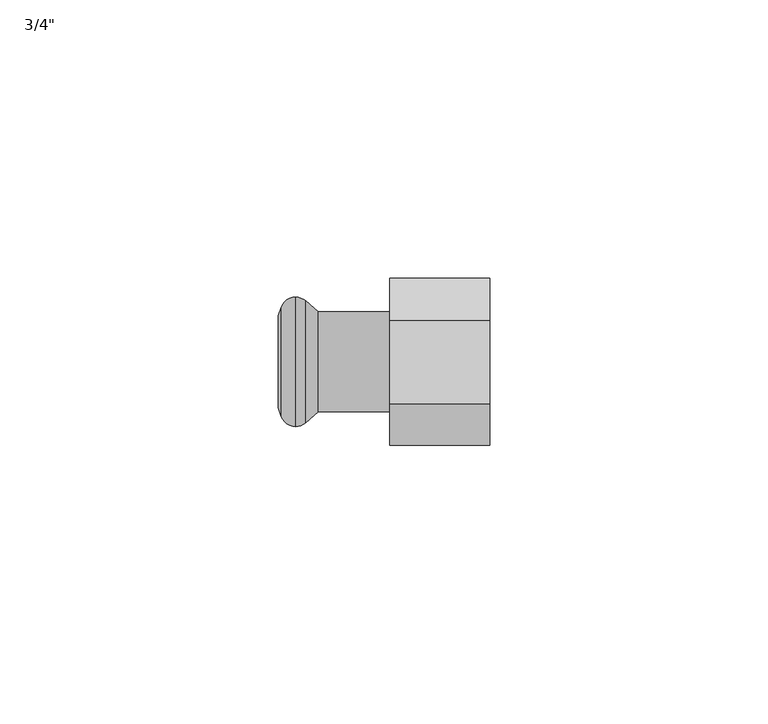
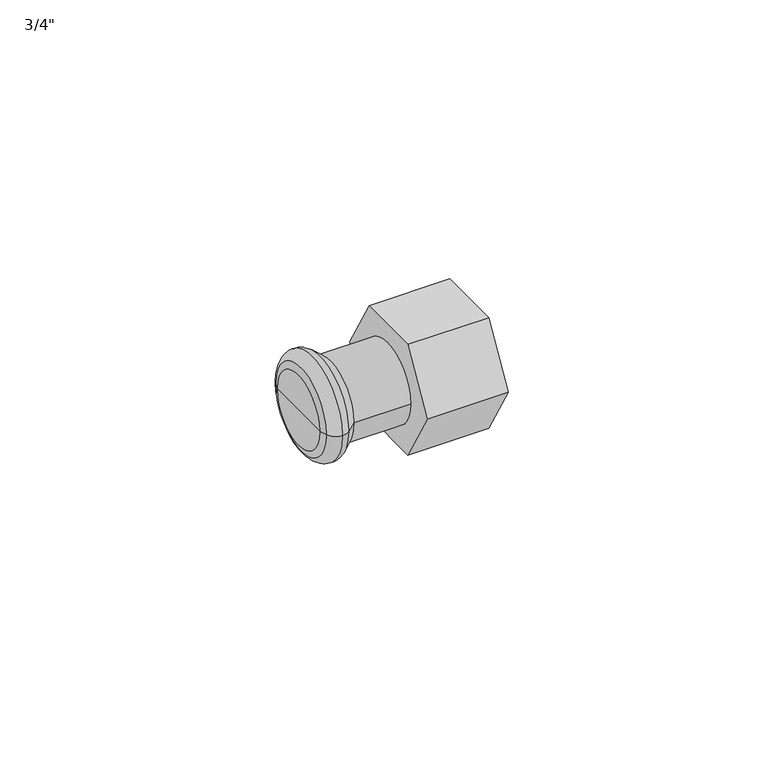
"""IFC4 building model written with IfcOpenShell, lengths in millimetres: pipe fitting geometry."""

import ifcopenshell
import ifcopenshell.guid

model = None  # the IFC model being written
_history = None  # IfcOwnerHistory: only IFC2X3 demands one
_inside = {}  # id of a spatial element -> (the spatial element, [elements in it])
_under = {}  # id of a project, library or spatial element -> (it, [spatial elements below it])
_declared = {}  # id of a project -> (the project, [libraries it declares])
_typed = {}  # id of a type object -> (the type object, [elements of that type])
_made_of = {}  # id of a material, layer set ... -> (it, [elements and type objects made of it])


def new_model(schema):
    """Start an empty IFC model of exactly this schema.

    Asked for "IFC4X3", IfcOpenShell would pick the latest addendum, in which some entities
    have other attributes; the version numbers below select the first issue.
    IFC2X3 requires an IfcOwnerHistory on every rooted entity: one is made here for all.
    """
    global model, _history
    if schema == "IFC4X3":
        model = ifcopenshell.file(schema_version=(4, 3, 0, 0))
    else:
        model = ifcopenshell.file(schema=schema)
    _inside.clear()
    _under.clear()
    _declared.clear()
    _typed.clear()
    _made_of.clear()
    _history = None
    if model.schema == "IFC2X3":
        org = make("IfcOrganization", Name="unknown")
        user = make(
            "IfcPersonAndOrganization",
            ThePerson=make("IfcPerson", FamilyName="unknown"),
            TheOrganization=org,
        )
        app = make(
            "IfcApplication",
            ApplicationDeveloper=org,
            Version="unknown",
            ApplicationFullName="unknown",
            ApplicationIdentifier="unknown",
        )
        _history = make(
            "IfcOwnerHistory",
            OwningUser=user,
            OwningApplication=app,
            ChangeAction="ADDED",
            CreationDate=0,
        )
    return model


def make(cls, **values):
    """One entity of the class cls with the attributes given. An attribute that is None is left unset."""
    return model.create_entity(
        cls, **{name: value for name, value in values.items() if value is not None}
    )


def rooted(cls, **values):
    """An entity with a GlobalId (a new one), such as an element, a storey or a relation."""
    return make(cls, GlobalId=ifcopenshell.guid.new(), OwnerHistory=_history, **values)


def si_unit(unit_type, name, prefix=None):
    """IfcSIUnit, for example si_unit("LENGTHUNIT", "METRE", prefix="MILLI")."""
    return make("IfcSIUnit", UnitType=unit_type, Prefix=prefix, Name=name)


def assignment(units):
    """IfcUnitAssignment: the units of a project."""
    return None if units is None else make("IfcUnitAssignment", Units=units)


def point(xyz):
    """IfcCartesianPoint."""
    return None if xyz is None else make("IfcCartesianPoint", Coordinates=xyz)


def direction(xyz):
    """IfcDirection."""
    return None if xyz is None else make("IfcDirection", DirectionRatios=xyz)


def frame(location, z_axis=None, x_axis=None):
    """IfcAxis2Placement3D, a coordinate frame: its origin and axes. An axis left out is left unset."""
    return make(
        "IfcAxis2Placement3D",
        Location=point(location),
        Axis=direction(z_axis),
        RefDirection=direction(x_axis),
    )


def origin():
    """The frame at (0, 0, 0) with its axes left unset."""
    return frame((0.0, 0.0, 0.0))


def place(relative_to, where):
    """IfcLocalPlacement: puts the frame where relative to a parent placement (None: the world)."""
    return make(
        "IfcLocalPlacement", PlacementRelTo=relative_to, RelativePlacement=where
    )


def context(
    kind, dimensions, precision=None, world=None, true_north=None, identifier=None
):
    """IfcGeometricRepresentationContext, for example the 3D "Model" context."""
    return make(
        "IfcGeometricRepresentationContext",
        ContextIdentifier=identifier,
        ContextType=kind,
        CoordinateSpaceDimension=dimensions,
        Precision=precision,
        WorldCoordinateSystem=world,
        TrueNorth=true_north,
    )


def project(units=None, contexts=None):
    """IfcProject with its units and contexts."""
    return rooted(
        "IfcProject",
        Name="project",
        RepresentationContexts=contexts,
        UnitsInContext=assignment(units),
    )


def spatial(cls, under=None, at=None, **own):
    """A site, building, storey or space (cls), placed at a placement, below another one or the project."""
    s = rooted(cls, ObjectPlacement=at, **own)
    if under is not None:
        _under.setdefault(under.id(), (under, []))[1].append(s)
    return s


def polyline(points):
    """IfcPolyline through the points."""
    return make("IfcPolyline", Points=[point(p) for p in points])


def circle_curve(where, radius):
    """IfcCircle in the frame where."""
    return make("IfcCircle", Position=where, Radius=radius)


def ellipse_curve(where, semi_axis1, semi_axis2):
    """IfcEllipse in the frame where."""
    return make(
        "IfcEllipse", Position=where, SemiAxis1=semi_axis1, SemiAxis2=semi_axis2
    )


def trimmed(basis, trim1, trim2, sense, master):
    """IfcTrimmedCurve: the piece of a basis curve between two trims."""
    return make(
        "IfcTrimmedCurve",
        BasisCurve=basis,
        Trim1=trim1,
        Trim2=trim2,
        SenseAgreement=sense,
        MasterRepresentation=master,
    )


def outline(outer, holes=None, kind="AREA"):
    """IfcArbitraryClosedProfileDef: a profile drawn as a closed curve; with holes, ...WithVoids."""
    if holes is None:
        return make("IfcArbitraryClosedProfileDef", ProfileType=kind, OuterCurve=outer)
    return make(
        "IfcArbitraryProfileDefWithVoids",
        ProfileType=kind,
        OuterCurve=outer,
        InnerCurves=holes,
    )


def extrude(swept, where, along, depth):
    """IfcExtrudedAreaSolid: the profile swept, set in the frame where, extruded along a direction by depth."""
    return make(
        "IfcExtrudedAreaSolid",
        SweptArea=swept,
        Position=where,
        ExtrudedDirection=direction(along),
        Depth=depth,
    )


def shape(context_of_items, identifier, shape_type, items):
    """IfcShapeRepresentation: the items that make up one representation, for example the "Body"."""
    return make(
        "IfcShapeRepresentation",
        ContextOfItems=context_of_items,
        RepresentationIdentifier=identifier,
        RepresentationType=shape_type,
        Items=items,
    )


def source(mapping_origin, context_of_items, identifier, shape_type, items):
    """IfcRepresentationMap: a shape defined once, which mapped items show again and again."""
    return make(
        "IfcRepresentationMap",
        MappingOrigin=mapping_origin,
        MappedRepresentation=shape(context_of_items, identifier, shape_type, items),
    )


def transform(
    local_origin,
    x_axis=None,
    y_axis=None,
    z_axis=None,
    scale=None,
    scale2=None,
    scale3=None,
    uniform=True,
):
    """IfcCartesianTransformationOperator3D, or its non-uniform kind. x_axis, y_axis, z_axis: its Axis1, 2, 3."""
    if uniform:
        return make(
            "IfcCartesianTransformationOperator3D",
            Axis1=direction(x_axis),
            Axis2=direction(y_axis),
            LocalOrigin=point(local_origin),
            Scale=scale,
            Axis3=direction(z_axis),
        )
    return make(
        "IfcCartesianTransformationOperator3DnonUniform",
        Axis1=direction(x_axis),
        Axis2=direction(y_axis),
        LocalOrigin=point(local_origin),
        Scale=scale,
        Axis3=direction(z_axis),
        Scale2=scale2,
        Scale3=scale3,
    )


def mapped(mapping_source, mapping_target):
    """IfcMappedItem: shows the shape of a source again, moved by a transform."""
    return make(
        "IfcMappedItem", MappingSource=mapping_source, MappingTarget=mapping_target
    )


def made_of(thing, what):
    """Note that an element or type object is made of a material, layer set ...; save() writes the relation."""
    if what is not None:
        _made_of.setdefault(what.id(), (what, []))[1].append(thing)
    return thing


def element(
    cls,
    number,
    at=None,
    inside=None,
    cuts=None,
    type_object=None,
    material=None,
    context=None,
    identifier="Body",
    shape_type=None,
    held_by="IfcProductDefinitionShape",
    body=None,
    shapes=None,
    **own,
):
    """One element of the class cls, such as IfcWall. Its Tag is "e" and its number.

    at: its placement. inside: the storey or other place that contains it. cuts: it is an
    opening in that element (IfcRelVoidsElement). A single representation is given by context,
    identifier, shape_type and body (its items); several are given by shapes. held_by: the class
    of the entity that holds the representations. save() writes the other relations.
    """
    e = rooted(cls, Tag="e%d" % number, ObjectPlacement=at, **own)
    if body is not None:
        shapes = [shape(context, identifier, shape_type, body)]
    if shapes is not None:
        e.Representation = make(held_by, Representations=shapes)
    if inside is not None:
        _inside.setdefault(inside.id(), (inside, []))[1].append(e)
    if cuts is not None:
        rooted(
            "IfcRelVoidsElement", RelatingBuildingElement=cuts, RelatedOpeningElement=e
        )
    if type_object is not None:
        _typed.setdefault(type_object.id(), (type_object, []))[1].append(e)
    return made_of(e, material)


def aggregate(whole, parts):
    """IfcRelAggregates: a whole, such as a stair, and the parts it consists of."""
    return rooted("IfcRelAggregates", RelatingObject=whole, RelatedObjects=parts)


def save(model, path):
    """Write the relations noted so far, then the file.

    IfcRelAggregates (storeys below a building ...), IfcRelContainedInSpatialStructure (elements
    in a storey), IfcRelDefinesByType, IfcRelAssociatesMaterial and IfcRelDeclares: one each for
    every whole, place, type object, material and project.
    """
    for whole, parts in _under.values():
        aggregate(whole, parts)
    for where, things in _inside.values():
        rooted(
            "IfcRelContainedInSpatialStructure",
            RelatedElements=things,
            RelatingStructure=where,
        )
    for kind, things in _typed.values():
        rooted("IfcRelDefinesByType", RelatedObjects=things, RelatingType=kind)
    for what, things in _made_of.values():
        rooted("IfcRelAssociatesMaterial", RelatedObjects=things, RelatingMaterial=what)
    for by, libraries in _declared.values():
        rooted("IfcRelDeclares", RelatingContext=by, RelatedDefinitions=libraries)
    model.write(path)


def plane_surface(at):
    """IfcPlane: the flat surface through the origin of the frame at, square to its z axis."""
    return make("IfcPlane", Position=at)


def cylinder_surface(at, radius):
    """IfcCylindricalSurface: all points at the distance radius from the z axis of the frame at."""
    return make("IfcCylindricalSurface", Position=at, Radius=radius)


def revolved_surface(curve, axis_point, axis_direction):
    """IfcSurfaceOfRevolution: the curve turned about the line through axis_point along axis_direction."""
    return make(
        "IfcSurfaceOfRevolution",
        SweptCurve=make("IfcArbitraryOpenProfileDef", ProfileType="CURVE", Curve=curve),
        AxisPosition=make("IfcAxis1Placement", Location=point(axis_point), Axis=direction(axis_direction)),
    )


def advanced_brep(points, edges, surfaces, faces):
    """IfcAdvancedBrep: a solid bounded by faces that lie on surfaces and meet in shared edges.

    An edge is (start, end): straight between two places in points (the first is 0);
    or (start, end, curve); or (start, end, curve, False) where it runs against its curve.
    A face is (place in surfaces, loops), or (place, loops, False) where it looks against
    its surface's normal. A loop lists edges by number (the first is 1), with a minus sign
    where the edge is run from its end to its start. The first loop is the outer one.
    """
    corners = [point(p) for p in points]
    vertices = [make("IfcVertexPoint", VertexGeometry=c) for c in corners]
    made = []
    for start, end, *more in edges:
        made.append(
            make(
                "IfcEdgeCurve",
                EdgeStart=vertices[start],
                EdgeEnd=vertices[end],
                EdgeGeometry=more[0] if more else make("IfcPolyline", Points=[corners[start], corners[end]]),
                SameSense=more[1] if len(more) > 1 else True,
            )
        )
    hull = []
    for where, loops, *sense in faces:
        bounds = []
        for j, loop in enumerate(loops):
            ring = [make("IfcOrientedEdge", EdgeElement=made[abs(k) - 1], Orientation=k > 0) for k in loop]
            bounds.append(
                make(
                    "IfcFaceOuterBound" if j == 0 else "IfcFaceBound",
                    Bound=make("IfcEdgeLoop", EdgeList=ring),
                    Orientation=True,
                )
            )
        hull.append(make("IfcAdvancedFace", Bounds=bounds, FaceSurface=surfaces[where], SameSense=sense[0] if sense else True))
    return make("IfcAdvancedBrep", Outer=make("IfcClosedShell", CfsFaces=hull))


def pipe_fitting_f1a50fe9(model_context):
    return source(origin(), model_context, "Body", "SolidModel", [
        extrude(outline(polyline([(-15.011107, 0.0), (-7.5055535, 13.0), (7.5055535, 13.0), (15.011107, 0.0), (7.5055535, -13.0), (-7.5055535, -13.0), (-15.011107, 0.0)])), frame((0.0, 0.0, 0.0), z_axis=(1.0, 0.0, 0.0), x_axis=(0.0, 1.0, 0.0)), (0.0, 0.0, 1.0), 18.0),
        advanced_brep(
        [(-12.7838092, -9.0, 0.0), (-12.7838092, 9.0, 0.0), (0.0, 9.0, 0.0), (0.0, -9.0, 0.0), (-15.0922627, -10.9370225, 0.0), (-15.0922627, 10.9370225, 0.0), (-16.8921278, -11.625, 0.0), (-16.8921278, 11.625, 0.0), (-19.432052, -9.8484544, 0.0), (-19.432052, 9.8484544, 0.0), (-20.0, -8.2880302, 0.0), (-20.0, 8.2880302, 0.0), (-20.0, 0.0, 0.0), (0.0, 0.0, 0.0)],
        [
            (0, 1, circle_curve(frame((-12.7838092, 0.0, 0.0), z_axis=(1.0, 0.0, 0.0), x_axis=(0.0, 1.0, 0.0)), 9.0)),
            (1, 2),
            (2, 3, circle_curve(frame((0.0, 0.0, 0.0), z_axis=(-1.0, 0.0, 0.0), x_axis=(0.0, 1.0, 0.0)), 9.0)),
            (3, 0),
            (1, 0, circle_curve(frame((-12.7838092, 0.0, 0.0), z_axis=(1.0, 0.0, 0.0), x_axis=(0.0, 1.0, 0.0)), 9.0)),
            (3, 2, circle_curve(frame((0.0, 0.0, 0.0), z_axis=(-1.0, 0.0, 0.0), x_axis=(0.0, 1.0, 0.0)), 9.0)),
            (4, 5, circle_curve(frame((-15.0922627, 0.0, 0.0), z_axis=(1.0, 0.0, 0.0), x_axis=(0.0, 1.0, 0.0)), 10.9370225)),
            (5, 1),
            (0, 4),
            (5, 4, circle_curve(frame((-15.0922627, 0.0, 0.0), z_axis=(1.0, 0.0, 0.0), x_axis=(0.0, 1.0, 0.0)), 10.9370225)),
            (6, 7, circle_curve(frame((-16.8921278, 0.0, 0.0), z_axis=(1.0, 0.0, 0.0), x_axis=(0.0, 1.0, 0.0)), 11.625)),
            (7, 5, circle_curve(frame((-16.8935049, 8.9230333, 0.0), z_axis=(0.0, 0.0, -1.0), x_axis=(1.0, 0.0, 0.0)), 2.701967)),
            (4, 6, circle_curve(frame((-16.8935049, -8.9230333, 0.0), z_axis=(0.0, 0.0, -1.0), x_axis=(1.0, 0.0, 0.0)), 2.701967)),
            (7, 6, circle_curve(frame((-16.8921278, 0.0, 0.0), z_axis=(1.0, 0.0, 0.0), x_axis=(0.0, 1.0, 0.0)), 11.625)),
            (8, 9, circle_curve(frame((-19.432052, 0.0, 0.0), z_axis=(1.0, 0.0, 0.0), x_axis=(0.0, 1.0, 0.0)), 9.8484544)),
            (9, 7, circle_curve(frame((-16.89488, 8.9249993, 0.0), z_axis=(0.0, 0.0, -1.0), x_axis=(1.0, 0.0, 0.0)), 2.7000021)),
            (6, 8, circle_curve(frame((-16.89488, -8.9249993, 0.0), z_axis=(0.0, 0.0, -1.0), x_axis=(1.0, 0.0, 0.0)), 2.7000021)),
            (9, 8, circle_curve(frame((-19.432052, 0.0, 0.0), z_axis=(1.0, 0.0, 0.0), x_axis=(0.0, 1.0, 0.0)), 9.8484544)),
            (10, 11, circle_curve(frame((-20.0, 0.0, 0.0), z_axis=(1.0, 0.0, 0.0), x_axis=(0.0, 1.0, 0.0)), 8.2880302)),
            (11, 9),
            (8, 10),
            (11, 10, circle_curve(frame((-20.0, 0.0, 0.0), z_axis=(1.0, 0.0, 0.0), x_axis=(0.0, 1.0, 0.0)), 8.2880302)),
            (12, 11),
            (10, 12),
            (2, 13),
            (13, 3),
        ],
        [
            cylinder_surface(frame((1346.742668, 0.0, 0.0), z_axis=(-1.0, 0.0, 0.0), x_axis=(0.0, 1.0, 0.0)), 9.0),
            revolved_surface(polyline([(-12.7838092, 9.0, 0.0), (-15.0922627, 10.9370225, 0.0)]), (1346.742668, 0.0, 0.0), (-1.0, 0.0, 0.0)),
            revolved_surface(trimmed(ellipse_curve(frame((-16.8935049, 8.9230333, 0.0), z_axis=(0.0, 0.0, 1.0), x_axis=(1.0, 0.0, 0.0)), 2.701967, 2.701967), [point((-15.0922627, 10.9370225, 0.0))], [point((-16.8921278, 11.625, 0.0))], True, "CARTESIAN"), (1346.742668, 0.0, 0.0), (-1.0, 0.0, 0.0)),
            revolved_surface(trimmed(ellipse_curve(frame((-16.89488, 8.9249993, 0.0), z_axis=(0.0, 0.0, 1.0), x_axis=(1.0, 0.0, 0.0)), 2.7000021, 2.7000021), [point((-16.8921278, 11.625, 0.0))], [point((-19.432052, 9.8484544, 0.0))], True, "CARTESIAN"), (1346.742668, 0.0, 0.0), (-1.0, 0.0, 0.0)),
            revolved_surface(polyline([(-19.432052, 9.8484544, 0.0), (-20.0, 8.2880302, 0.0)]), (1346.742668, 0.0, 0.0), (-1.0, 0.0, 0.0)),
            plane_surface(frame((-20.0, 0.0, 0.0), z_axis=(-1.0, 0.0, 0.0), x_axis=(0.0, 1.0, 0.0))),
            plane_surface(frame((0.0, 0.0, 0.0), z_axis=(1.0, 0.0, 0.0), x_axis=(0.0, 1.0, 0.0))),
        ],
        [
            (0, [[1, 2, 3, 4]]),
            (0, [[5, -4, 6, -2]]),
            (1, [[7, 8, -1, 9]]),
            (1, [[10, -9, -5, -8]]),
            (2, [[11, 12, -7, 13]]),
            (2, [[14, -13, -10, -12]]),
            (3, [[15, 16, -11, 17]]),
            (3, [[18, -17, -14, -16]]),
            (4, [[19, 20, -15, 21]]),
            (4, [[22, -21, -18, -20]]),
            (5, [[23, -19, 24]]),
            (5, [[-24, -22, -23]]),
            (6, [[-3, 25, 26]]),
            (6, [[-6, -26, -25]]),
        ],
    ),
    ])


if __name__ == "__main__":
    model = new_model("IFC4")
    model_context = context("Model", 3, world=origin())
    ifc_project = project(units=[si_unit("LENGTHUNIT", "METRE", prefix="MILLI")], contexts=[model_context])
    site = spatial("IfcSite", under=ifc_project)
    building = spatial("IfcBuilding", under=site)
    placement = place(None, origin())
    pipe_fitting_shape = pipe_fitting_f1a50fe9(model_context)
    element("IfcPipeFitting", 1, ObjectType="KAN-therm Steel śrubunek GW (VK) : 3/4\"", at=placement, inside=building, context=model_context, shape_type="MappedRepresentation", body=[
        mapped(pipe_fitting_shape, transform((0.0, 0.0, 0.0), x_axis=(1.0, 0.0, 0.0), y_axis=(0.0, 1.0, 0.0), z_axis=(0.0, 0.0, 1.0))),
    ])
    save(model, "model.ifc")
